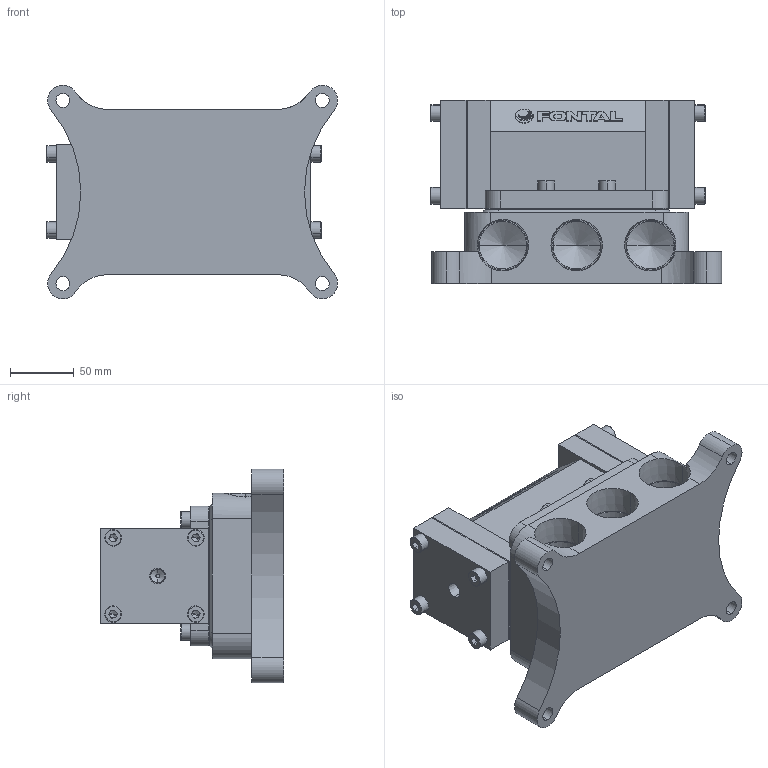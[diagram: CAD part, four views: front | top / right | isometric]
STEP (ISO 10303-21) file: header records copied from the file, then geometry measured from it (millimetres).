
FILE_DESCRIPTION (( 'STEP AP203' ), '1' );
FILE_NAME ('VMD2425-10.STEP', '2016-01-13T18:36:28', ( '' ), ( '' ), 'SwSTEP 2.0', 'SolidWorks 2014', '' );
FILE_SCHEMA (( 'CONFIG_CONTROL_DESIGN' ));
Length unit declared in the file: millimetre
Products named in the file (8): PM25底座-1-10; ISO 4762 M8; PM25-MARK-24; VMS2425-1; PMS2425-4; VMD2425-10; PMS2425-2; PMS2425-1
Assembly tree (20 placements, depth 2):
  VMD2425-10
    PMS2425-1
    PMS2425-2  x2
    ISO 4762 M8  x12
    PMS2425-4
    PM25-MARK-24
    VMS2425-1  x2
    PM25底座-1-10
Bounding box: 229 x 144 x 167.99 mm (x, y, z)
Volume: 2443073.8 mm3; surface area: 300297.8 mm2
Topology: 26 solids, 26 shells, 596 faces, 1392 edges, 849 vertices
Faces by surface type: plane 325, cylinder 139, cone 76, torus 48, bspline 8
Entity records: 9532 total; most frequent: CARTESIAN_POINT 1631, DIRECTION 1424, ORIENTED_EDGE 1356, EDGE_CURVE 678, AXIS2_PLACEMENT_3D 493, VERTEX_POINT 444, LINE 438, VECTOR 438
